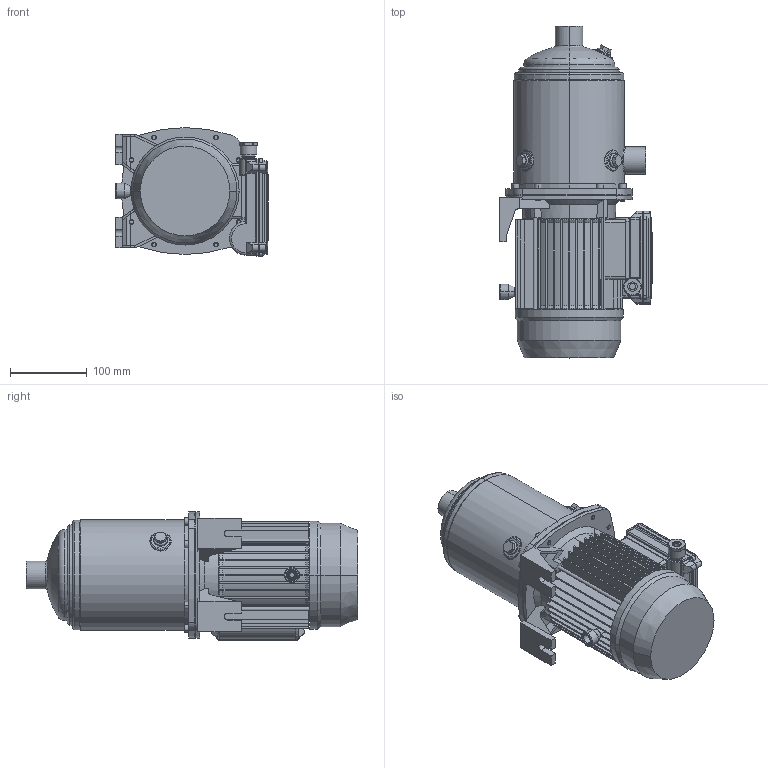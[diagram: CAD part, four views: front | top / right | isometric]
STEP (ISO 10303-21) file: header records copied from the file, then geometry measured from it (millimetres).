
FILE_DESCRIPTION((''),'2;1');
FILE_NAME('MATRIX_3-6T_0_9_M_ASM','2017-04-07T',('rosa'),('"Ebara Pumps Europe +39.444.706811"'),'PRO/ENGINEER BY PARAMETRIC TECHNOLOGY CORPORATION, 2012130','PRO/ENGINEER BY PARAMETRIC TECHNOLOGY CORPORATION, 2012130','');
FILE_SCHEMA(('AUTOMOTIVE_DESIGN { 1 0 10303 214 1 1 1 1 }'));
Length unit declared in the file: millimetre
Products named in the file (6): CORPO_POMPA_MATRIX_3-6; SUPPORTO_MATRIX_MEC_71; MEC_71_PACCO_90_MONOFASE; 72228; COPRIMORS_MEC63-71_MONOFASE_M4; MATRIX_3-6T_0_9_M_ASM
Assembly tree (5 placements, depth 2):
  MATRIX_3-6T_0_9_M_ASM
    CORPO_POMPA_MATRIX_3-6
    SUPPORTO_MATRIX_MEC_71
    MEC_71_PACCO_90_MONOFASE
    72228
    COPRIMORS_MEC63-71_MONOFASE_M4
Bounding box: 198 x 431.8 x 167.5 mm (x, y, z)
Volume: 5139376.5 mm3; surface area: 533271.5 mm2
Topology: 5 solids, 5 shells, 938 faces, 2262 edges, 1388 vertices
Faces by surface type: plane 455, cylinder 277, cone 126, torus 39, bspline 31, sphere 10
Entity records: 37525 total; most frequent: CARTESIAN_POINT 8030, DIRECTION 4686, ORIENTED_EDGE 4524, EDGE_CURVE 2262, PRESENTATION_STYLE_ASSIGNMENT 2216, STYLED_ITEM 2216, CURVE_STYLE 2212, AXIS2_PLACEMENT_3D 1777
